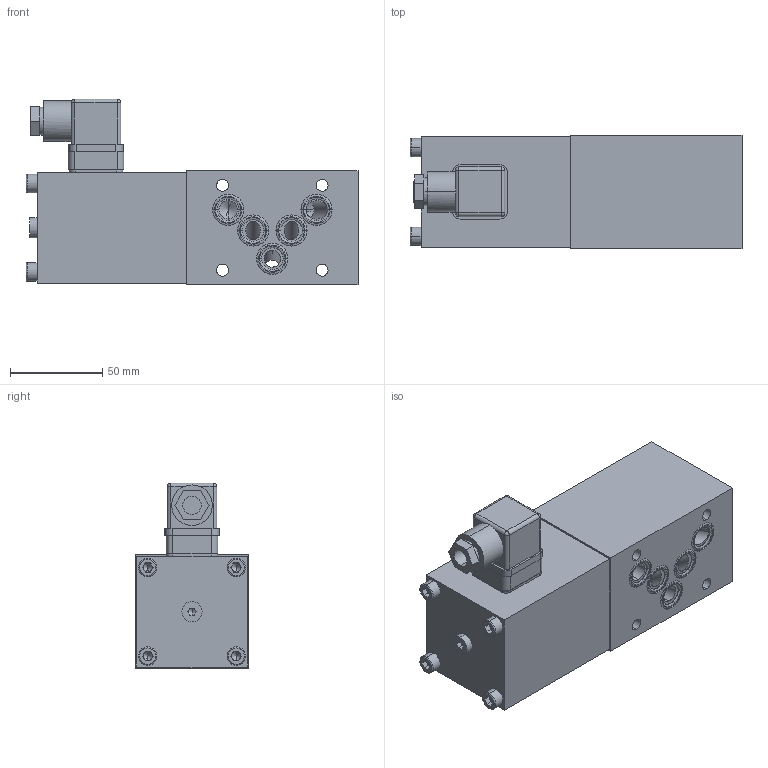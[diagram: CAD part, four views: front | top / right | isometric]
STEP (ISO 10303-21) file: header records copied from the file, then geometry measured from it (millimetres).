
FILE_DESCRIPTION (( 'STEP AP214' ), '1' );
FILE_NAME ('Z.22101T.STEP', '2017-03-08T09:13:23', ( '' ), ( '' ), 'SwSTEP 2.0', 'SolidWorks 2016', '' );
FILE_SCHEMA (( 'AUTOMOTIVE_DESIGN' ));
Length unit declared in the file: millimetre
Products named in the file (1): Z.22101T
Bounding box: 180.2 x 61.5 x 100.8 mm (x, y, z)
Volume: 652642.5 mm3; surface area: 91879.6 mm2
Topology: 12 solids, 19 shells, 626 faces, 1587 edges, 1012 vertices
Faces by surface type: plane 305, cylinder 206, cone 53, bspline 46, torus 16
Entity records: 26799 total; most frequent: CARTESIAN_POINT 4716, DIRECTION 3161, ORIENTED_EDGE 3126, EDGE_CURVE 1563, AXIS2_PLACEMENT_3D 1138, VERTEX_POINT 1012, LINE 885, VECTOR 885
